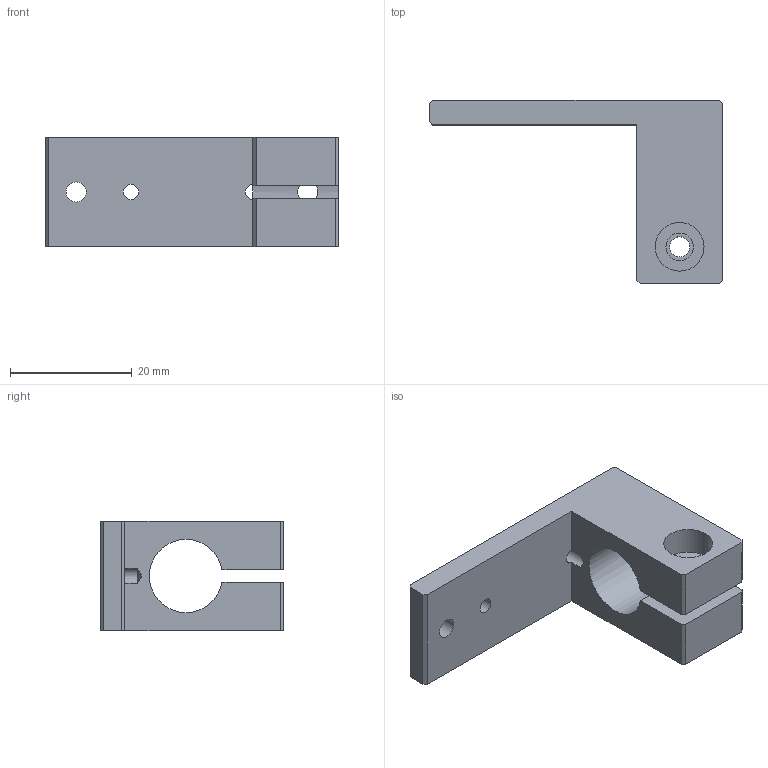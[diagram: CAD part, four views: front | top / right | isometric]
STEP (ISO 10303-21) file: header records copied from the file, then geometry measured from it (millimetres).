
FILE_DESCRIPTION (( 'STEP AP203' ), '1' );
FILE_NAME ('N01866-201(131179).STEP', '2019-09-10T05:39:16', ( '' ), ( '' ), 'SwSTEP 2.0', 'SolidWorks 2018', '' );
FILE_SCHEMA (( 'CONFIG_CONTROL_DESIGN' ));
Length unit declared in the file: millimetre
Products named in the file (2): N01866-201(131179)
Bounding box: 48 x 30 x 18 mm (x, y, z)
Volume: 7634.9 mm3; surface area: 4719.1 mm2
Topology: 1 solids, 1 shells, 28 faces, 81 edges, 54 vertices
Faces by surface type: plane 19, cylinder 8, cone 1
Full cylindrical faces by diameter (mm): 2.5 x2, 3.3 x3, 4.5 x1, 8 x1
Entity records: 1093 total; most frequent: CARTESIAN_POINT 206, DIRECTION 146, ORIENTED_EDGE 142, EDGE_CURVE 71, LINE 54, VECTOR 54, VERTEX_POINT 52, EDGE_LOOP 47
